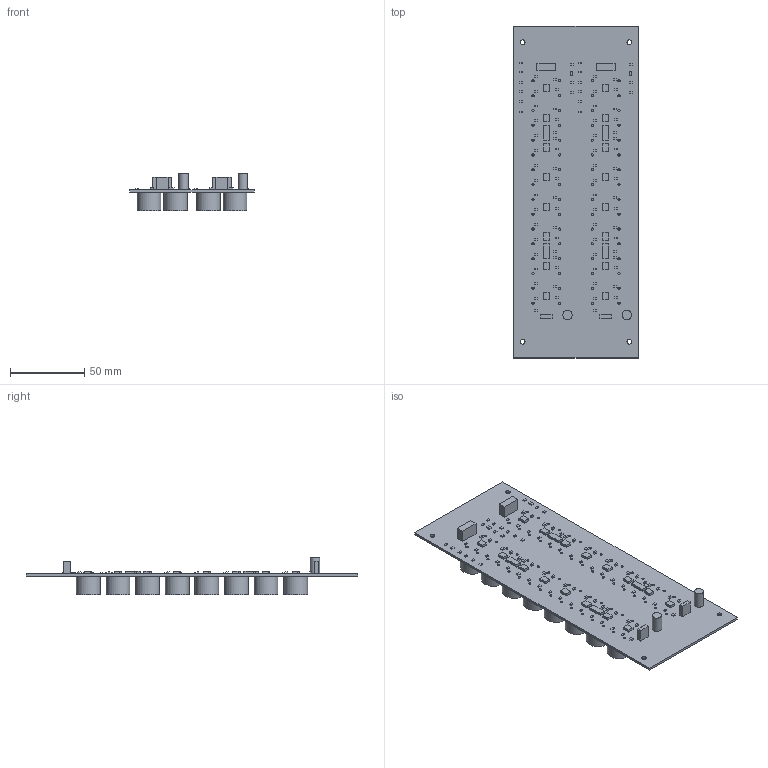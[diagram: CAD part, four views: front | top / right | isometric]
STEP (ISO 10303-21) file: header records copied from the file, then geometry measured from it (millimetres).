
FILE_DESCRIPTION(('Open CASCADE Model'),'2;1');
FILE_NAME('Open CASCADE Shape Model','2026-10-06T14:52:15',('Author'),( 'Open CASCADE'),'Open CASCADE STEP processor 7.9','Open CASCADE 7.9' ,'Unknown');
FILE_SCHEMA(('AUTOMOTIVE_DESIGN { 1 0 10303 214 1 1 1 1 }'));
Length unit declared in the file: millimetre
Products named in the file (11): panel32_r2; PCB; C1; C19; J1; J3; Q1; R1; T1; U1; U10
Assembly tree (149 placements, depth 2):
  panel32_r2
    PCB
    C1  x38
    C19  x2
    J1  x2
    J3  x2
    Q1  x2
    R1  x50
    T1  x32
    U1  x4
    U10  x16
Bounding box: 84 x 224 x 25.1 mm (x, y, z)
Volume: 113381.7 mm3; surface area: 76380.9 mm2
Topology: 149 solids, 149 shells, 890 faces, 1776 edges, 1184 vertices
Faces by surface type: plane 758, cylinder 132
Full cylindrical faces by diameter (mm): 0.8 x4, 1 x26, 1.5 x64, 3.2 x4, 6.3 x2, 16 x32
Entity records: 12259 total; most frequent: CARTESIAN_POINT 2930, DIRECTION 1796, ORIENTED_EDGE 792, PCURVE 792, DEFINITIONAL_REPRESENTATION 792, LINE 788, VECTOR 788, AXIS2_PLACEMENT_3D 502
